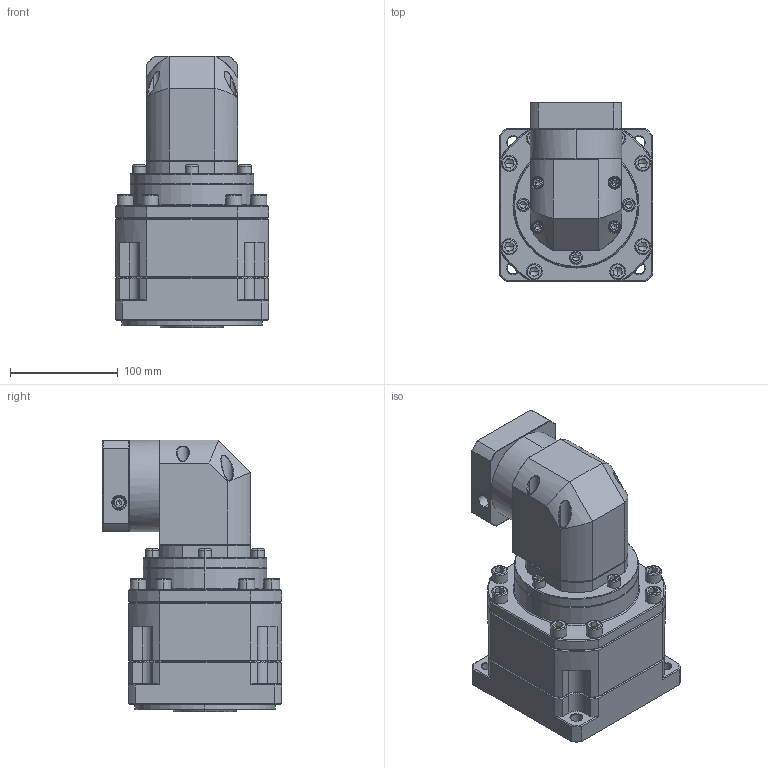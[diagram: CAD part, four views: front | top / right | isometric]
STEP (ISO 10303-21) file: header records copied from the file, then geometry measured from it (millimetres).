
FILE_DESCRIPTION (( 'STEP AP214' ), '1' );
FILE_NAME ('ZBR142A-K35-L3-P2-12.7-73-69.6X69.6-M6.step', '2023-09-02T08:40:25', ( '' ), ( '' ), 'SwSTEP 2.0', 'SolidWorks 2016', '' );
FILE_SCHEMA (( 'AUTOMOTIVE_DESIGN' ));
Length unit declared in the file: millimetre
Products named in the file (1): ZBR142A-K35-L3-P2-12.7-73-69.6X69.6-M6
Bounding box: 142 x 166.1 x 252.2 mm (x, y, z)
Volume: 3191050.4 mm3; surface area: 238461.4 mm2
Topology: 6 solids, 6 shells, 2663 faces, 6850 edges, 4314 vertices
Faces by surface type: plane 1320, cylinder 486, bspline 458, cone 385, torus 14
Entity records: 136668 total; most frequent: CARTESIAN_POINT 46343, ORIENTED_EDGE 13564, DIRECTION 11086, EDGE_CURVE 6782, VECTOR 4398, LINE 4398, VERTEX_POINT 4314, AXIS2_PLACEMENT_3D 3344
